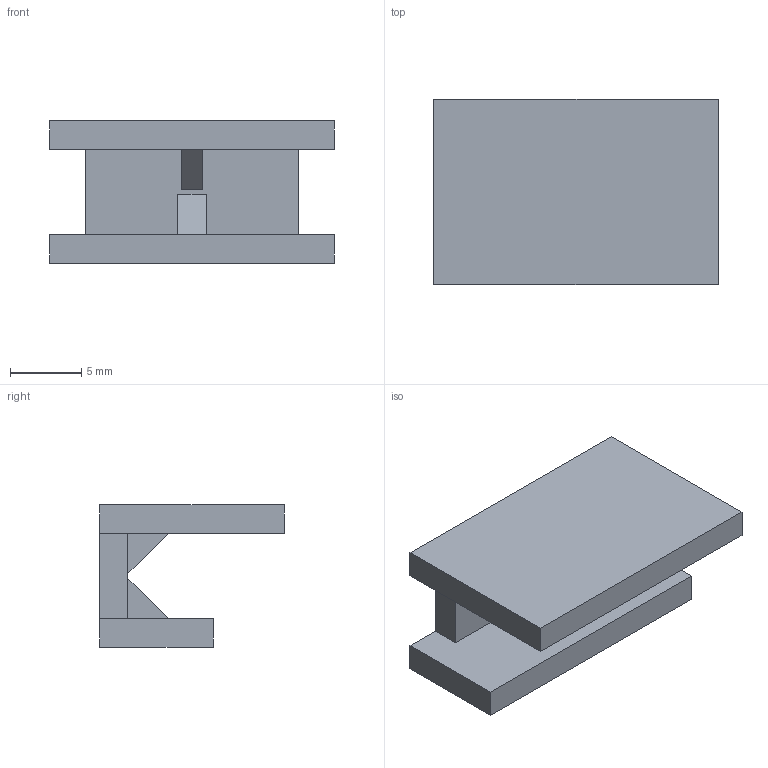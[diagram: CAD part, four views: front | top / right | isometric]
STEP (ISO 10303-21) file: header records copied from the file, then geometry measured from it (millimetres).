
FILE_DESCRIPTION (( 'STEP AP214' ), '1' );
FILE_NAME ('002311.STEP', '2022-02-21T08:08:39', ( '' ), ( '' ), 'SwSTEP 2.0', 'SolidWorks 2021', '' );
FILE_SCHEMA (( 'AUTOMOTIVE_DESIGN' ));
Length unit declared in the file: millimetre
Products named in the file (1): 002311
Bounding box: 20 x 13 x 10 mm (x, y, z)
Volume: 1034 mm3; surface area: 1238.2 mm2
Topology: 1 solids, 1 shells, 20 faces, 54 edges, 36 vertices
Faces by surface type: plane 20
Entity records: 652 total; most frequent: CARTESIAN_POINT 111, ORIENTED_EDGE 108, DIRECTION 96, EDGE_CURVE 54, VECTOR 54, LINE 54, VERTEX_POINT 36, AXIS2_PLACEMENT_3D 21
